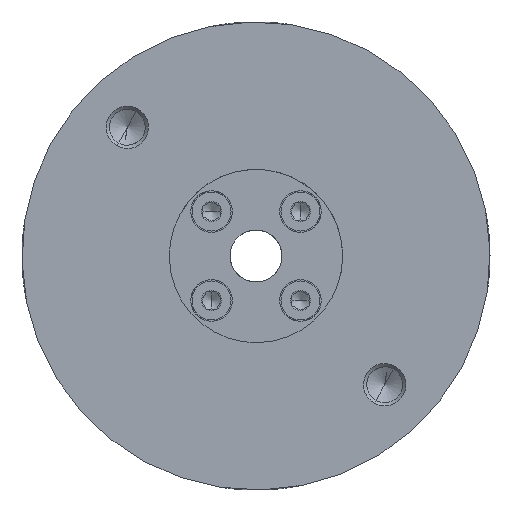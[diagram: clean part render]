
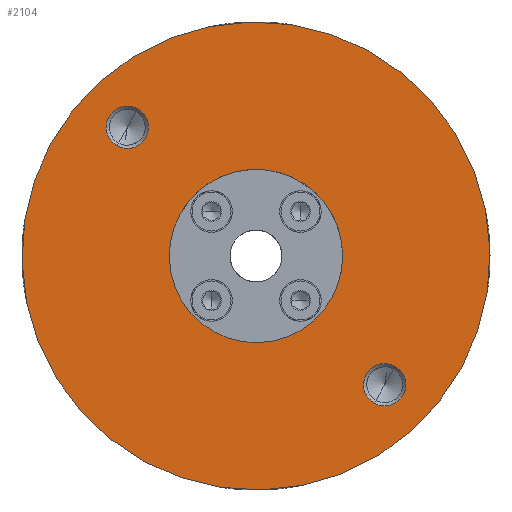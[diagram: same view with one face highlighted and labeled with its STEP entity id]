
A CAD part, front view. The second image highlights one B-rep face of the part: STEP entity #2104.
In plain terms, the highlighted planar face has unit normal (0, -1, 0).
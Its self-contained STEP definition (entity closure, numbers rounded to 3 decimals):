
#1761=AXIS2_PLACEMENT_3D('Circle Axis2P3D',#1759,#1760,$) ;
#2044=AXIS2_PLACEMENT_3D('Plane Axis2P3D',#2041,#2042,#2043) ;
#2048=AXIS2_PLACEMENT_3D('Circle Axis2P3D',#2046,#2047,$) ;
#2057=AXIS2_PLACEMENT_3D('Circle Axis2P3D',#2055,#2056,$) ;
#2070=AXIS2_PLACEMENT_3D('Circle Axis2P3D',#2068,#2069,$) ;
#2079=AXIS2_PLACEMENT_3D('Circle Axis2P3D',#2077,#2078,$) ;
#2088=AXIS2_PLACEMENT_3D('Circle Axis2P3D',#2086,#2087,$) ;
#2097=AXIS2_PLACEMENT_3D('Circle Axis2P3D',#2095,#2096,$) ;
#1717=CARTESIAN_POINT('Control Point',(-8.776,0.,4.794)) ;
#1718=CARTESIAN_POINT('Control Point',(-8.023,0.,6.173)) ;
#1719=CARTESIAN_POINT('Control Point',(-6.999,0.,7.403)) ;
#1720=CARTESIAN_POINT('Control Point',(-5.743,0.,8.415)) ;
#1721=CARTESIAN_POINT('Control Point',(-2.902,0.,9.891)) ;
#1722=CARTESIAN_POINT('Control Point',(0.286,0.,10.184)) ;
#1723=CARTESIAN_POINT('Control Point',(1.889,0.,10.011)) ;
#1724=CARTESIAN_POINT('Control Point',(4.942,0.,9.046)) ;
#1725=CARTESIAN_POINT('Control Point',(7.403,0.,6.999)) ;
#1726=CARTESIAN_POINT('Control Point',(8.415,0.,5.743)) ;
#1727=CARTESIAN_POINT('Control Point',(9.891,0.,2.902)) ;
#1728=CARTESIAN_POINT('Control Point',(10.184,0.,-0.286)) ;
#1729=CARTESIAN_POINT('Control Point',(10.011,0.,-1.889)) ;
#1730=CARTESIAN_POINT('Control Point',(9.529,0.,-3.416)) ;
#1731=CARTESIAN_POINT('Control Point',(8.776,0.,-4.794)) ;
#1732=CARTESIAN_POINT('Vertex',(-8.776,0.,4.794)) ;
#1734=CARTESIAN_POINT('Vertex',(8.776,0.,-4.794)) ;
#1759=CARTESIAN_POINT('Axis2P3D Location',(0.,0.,0.)) ;
#2041=CARTESIAN_POINT('Axis2P3D Location',(-27.,0.,0.)) ;
#2046=CARTESIAN_POINT('Axis2P3D Location',(0.,0.,0.)) ;
#2050=CARTESIAN_POINT('Vertex',(-23.695,0.,12.944)) ;
#2052=CARTESIAN_POINT('Vertex',(23.695,0.,-12.944)) ;
#2055=CARTESIAN_POINT('Axis2P3D Location',(0.,0.,0.)) ;
#2068=CARTESIAN_POINT('Axis2P3D Location',(14.849,0.,-14.849)) ;
#2072=CARTESIAN_POINT('Vertex',(16.022,0.,-12.702)) ;
#2074=CARTESIAN_POINT('Vertex',(13.676,0.,-16.997)) ;
#2077=CARTESIAN_POINT('Axis2P3D Location',(14.849,0.,-14.849)) ;
#2086=CARTESIAN_POINT('Axis2P3D Location',(-14.849,0.,14.849)) ;
#2090=CARTESIAN_POINT('Vertex',(-16.022,0.,12.702)) ;
#2092=CARTESIAN_POINT('Vertex',(-13.676,0.,16.997)) ;
#2095=CARTESIAN_POINT('Axis2P3D Location',(-14.849,0.,14.849)) ;
#1760=DIRECTION('Axis2P3D Direction',(0.,1.,0.)) ;
#2042=DIRECTION('Axis2P3D Direction',(-0.,1.,0.)) ;
#2043=DIRECTION('Axis2P3D XDirection',(1.,0.,0.)) ;
#2047=DIRECTION('Axis2P3D Direction',(-0.,1.,0.)) ;
#2056=DIRECTION('Axis2P3D Direction',(-0.,1.,0.)) ;
#2069=DIRECTION('Axis2P3D Direction',(-0.,1.,0.)) ;
#2078=DIRECTION('Axis2P3D Direction',(-0.,1.,0.)) ;
#2087=DIRECTION('Axis2P3D Direction',(-0.,1.,0.)) ;
#2096=DIRECTION('Axis2P3D Direction',(-0.,1.,0.)) ;
#2061=ORIENTED_EDGE('',*,*,#2054,.F.) ;
#2062=ORIENTED_EDGE('',*,*,#2059,.F.) ;
#2065=ORIENTED_EDGE('',*,*,#1736,.T.) ;
#2066=ORIENTED_EDGE('',*,*,#1763,.T.) ;
#2083=ORIENTED_EDGE('',*,*,#2076,.T.) ;
#2084=ORIENTED_EDGE('',*,*,#2081,.T.) ;
#2101=ORIENTED_EDGE('',*,*,#2094,.T.) ;
#2102=ORIENTED_EDGE('',*,*,#2099,.T.) ;
#2067=FACE_BOUND('',#2064,.T.) ;
#2085=FACE_BOUND('',#2082,.T.) ;
#2103=FACE_BOUND('',#2100,.T.) ;
#2104=ADVANCED_FACE('ADAPTER',(#2063,#2067,#2085,#2103),#2045,.F.) ;
#1716=B_SPLINE_CURVE_WITH_KNOTS('',5,(#1717,#1718,#1719,#1720,#1721,#1722,#1723,#1724,#1725,#1726,#1727,#1728,#1729,#1730,#1731),.UNSPECIFIED.,.F.,.U.,(6,3,3,3,6),(-15.708,-7.854,0.,7.854,15.708),.UNSPECIFIED.) ;
#1762=CIRCLE('generated circle',#1761,10.) ;
#2049=CIRCLE('generated circle',#2048,27.) ;
#2058=CIRCLE('generated circle',#2057,27.) ;
#2071=CIRCLE('generated circle',#2070,2.447) ;
#2080=CIRCLE('generated circle',#2079,2.447) ;
#2089=CIRCLE('generated circle',#2088,2.447) ;
#2098=CIRCLE('generated circle',#2097,2.447) ;
#1736=EDGE_CURVE('',#1733,#1735,#1716,.T.) ;
#1763=EDGE_CURVE('',#1735,#1733,#1762,.T.) ;
#2054=EDGE_CURVE('',#2051,#2053,#2049,.T.) ;
#2059=EDGE_CURVE('',#2053,#2051,#2058,.T.) ;
#2076=EDGE_CURVE('',#2073,#2075,#2071,.T.) ;
#2081=EDGE_CURVE('',#2075,#2073,#2080,.T.) ;
#2094=EDGE_CURVE('',#2091,#2093,#2089,.T.) ;
#2099=EDGE_CURVE('',#2093,#2091,#2098,.T.) ;
#2060=EDGE_LOOP('',(#2061,#2062)) ;
#2064=EDGE_LOOP('',(#2065,#2066)) ;
#2082=EDGE_LOOP('',(#2083,#2084)) ;
#2100=EDGE_LOOP('',(#2101,#2102)) ;
#2063=FACE_OUTER_BOUND('',#2060,.T.) ;
#2045=PLANE('Plane',#2044) ;
#1733=VERTEX_POINT('',#1732) ;
#1735=VERTEX_POINT('',#1734) ;
#2051=VERTEX_POINT('',#2050) ;
#2053=VERTEX_POINT('',#2052) ;
#2073=VERTEX_POINT('',#2072) ;
#2075=VERTEX_POINT('',#2074) ;
#2091=VERTEX_POINT('',#2090) ;
#2093=VERTEX_POINT('',#2092) ;
